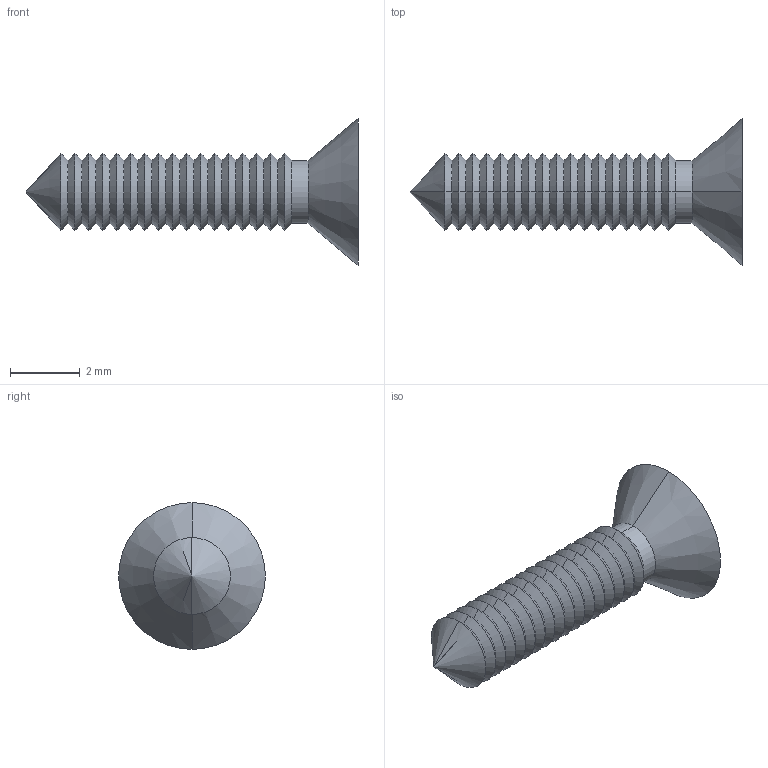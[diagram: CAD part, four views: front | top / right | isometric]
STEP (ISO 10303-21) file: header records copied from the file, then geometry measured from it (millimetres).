
FILE_DESCRIPTION (( 'STEP AP214' ), '1' );
FILE_NAME ('Cargol PP102 2,2x9,5 DIN 7982.STEP', '2018-06-05T08:58:52', ( 'aaa' ), ( '' ), 'SwSTEP 2.0', 'SolidWorks 2013', '' );
FILE_SCHEMA (( 'AUTOMOTIVE_DESIGN' ));
Length unit declared in the file: millimetre
Products named in the file (1): Cargol PP102 2,2x9,5 DIN 7982
Bounding box: 9.5 x 4.2 x 4.2 mm (x, y, z)
Volume: 33.5 mm3; surface area: 100.4 mm2
Topology: 1 solids, 1 shells, 86 faces, 182 edges, 97 vertices
Faces by surface type: cone 70, plane 14, cylinder 2
Entity records: 2258 total; most frequent: DIRECTION 426, CARTESIAN_POINT 364, ORIENTED_EDGE 360, EDGE_CURVE 180, AXIS2_PLACEMENT_3D 159, VECTOR 108, LINE 108, VERTEX_POINT 97
